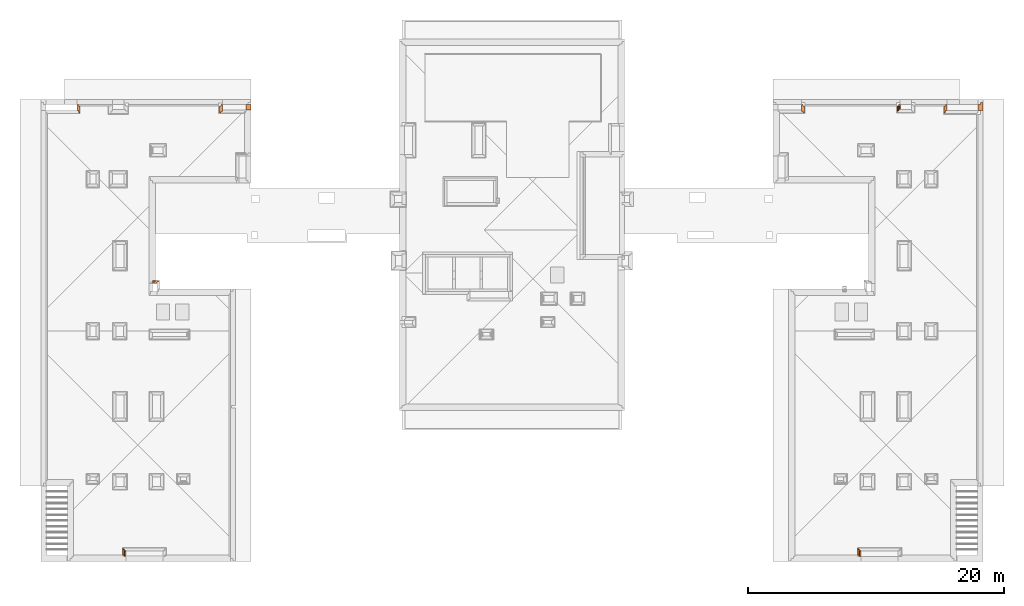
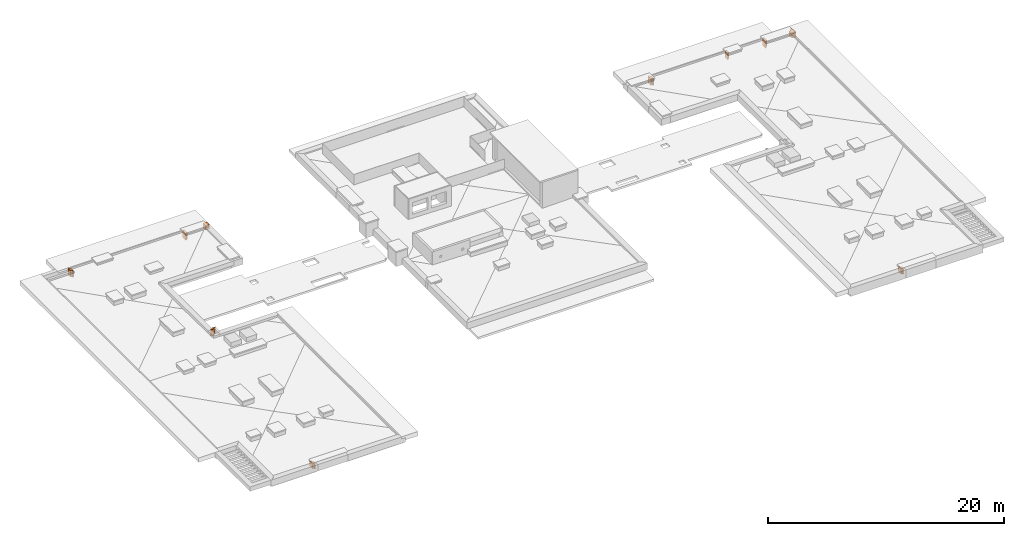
# One storey, part 16 of 16: 10 proxies.
"""IFC2X3 building model written with IfcOpenShell, lengths in millimetres."""

from ifc_helpers import new_model, entity, si_unit, converted_unit, derived_unit, money_unit, direction, frame, origin_with_axes, place, context, subcontext, project, spatial, faceted_brep, material, material_list, type_object, element, save


model = new_model("IFC2X3")

# Units and contexts
model_context = context("Model", 3, precision=0.01, world=origin_with_axes(), true_north=direction((0.34421633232, 0.938890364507)))
body_context = subcontext(model_context, "Body", "Model", "MODEL_VIEW")
ifc_project = project(units=[si_unit("LENGTHUNIT", "METRE", prefix="MILLI"), si_unit("AREAUNIT", "SQUARE_METRE"), si_unit("VOLUMEUNIT", "CUBIC_METRE"), converted_unit("PLANEANGLEUNIT", "DEGREE", entity("IfcPlaneAngleMeasure", 0.0174532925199), si_unit("PLANEANGLEUNIT", "RADIAN"), dimensions=[0, 0, 0, 0, 0, 0, 0]), si_unit("SOLIDANGLEUNIT", "STERADIAN"), money_unit("USD"), converted_unit("TIMEUNIT", "Year", entity("IfcTimeMeasure", 31556926.0), si_unit("TIMEUNIT", "SECOND"), dimensions=[0, 0, 1, 0, 0, 0, 0]), si_unit("MASSUNIT", "GRAM", prefix="KILO"), si_unit("THERMODYNAMICTEMPERATUREUNIT", "DEGREE_CELSIUS"), si_unit("LUMINOUSINTENSITYUNIT", "LUMEN"), si_unit("ENERGYUNIT", "JOULE", prefix="MEGA"), derived_unit("THERMALCONDUCTANCEUNIT", [(si_unit("POWERUNIT", "WATT"), 1), (si_unit("LENGTHUNIT", "METRE"), -1), (si_unit("THERMODYNAMICTEMPERATUREUNIT", "KELVIN"), -1)]), derived_unit("SPECIFICHEATCAPACITYUNIT", [(si_unit("ENERGYUNIT", "JOULE"), 1), (si_unit("MASSUNIT", "GRAM", prefix="KILO"), -1), (si_unit("THERMODYNAMICTEMPERATUREUNIT", "KELVIN"), -1)]), derived_unit("MASSDENSITYUNIT", [(si_unit("MASSUNIT", "GRAM", prefix="KILO"), 1), (si_unit("VOLUMEUNIT", "CUBIC_METRE"), -1)])], contexts=[model_context])

# Site, building, storey
site_placement = place(None, origin_with_axes())
site = spatial("IfcSite", under=ifc_project, at=site_placement, Name="USTRONIE MORSKIE", CompositionType="ELEMENT")
building_placement = place(site_placement, origin_with_axes())
building = spatial("IfcBuilding", under=site, at=building_placement, Name="Budynek", CompositionType="ELEMENT")
storey_placement = place(building_placement, frame((0.0, 0.0, 19000.0), z_axis=(0.0, 0.0, 1.0), x_axis=(1.0, 0.0, 0.0)))
storey = spatial("IfcBuildingStorey", under=building, at=storey_placement, Name="DACH", CompositionType="ELEMENT", Elevation=19000.0)

# Proxies
ifc_material_1 = material(Name="Bloczki silikatowe")
ifc_material_2 = material(Name="Wełna ELEW")
ifc_material_3 = material(Name="Tynk zewnętrzny")
ifc_material_list_1 = material_list([ifc_material_1, ifc_material_2, ifc_material_3])
building_element_proxy_type_1 = type_object("IfcBuildingElementProxyType", Name="12+10 kominy 230", PredefinedType="NOTDEFINED")
proxy_1_placement = place(storey_placement, frame((365157.901749, 744801.199036, -160.0), z_axis=(0.0, 0.0, 1.0), x_axis=(0.0, -1.0, 0.0)))
element("IfcBuildingElementProxy", 1, at=proxy_1_placement, inside=storey, type_object=building_element_proxy_type_1, material=ifc_material_list_1, Name="Œciana-006", context=body_context, shape_type="Brep", body=[
    faceted_brep([(720.0, 0.0, 0.0), (180.0, 0.0, 0.0), (180.0, 0.0, 660.0), (720.0, 0.0, 660.0), (720.0, -120.0, 0.0), (180.0, -120.0, 0.0), (180.0, -120.0, 660.0), (720.0, -120.0, 660.0)], [[[0, 1, 2, 3]], [[4, 5, 1, 0]], [[5, 6, 2, 1]], [[3, 2, 6, 7]], [[4, 0, 3, 7]], [[7, 6, 5, 4]]]),
    faceted_brep([(820.0, -120.0, 5.0), (280.0, -120.0, 5.0), (280.0, -120.0, 660.0), (820.0, -120.0, 660.0), (280.0, -220.0, 5.0), (820.0, -220.0, 5.0), (280.0, -220.0, 660.0), (820.0, -220.0, 660.0)], [[[0, 1, 2, 3]], [[4, 1, 0, 5]], [[1, 4, 6, 2]], [[3, 2, 6, 7]], [[5, 0, 3, 7]], [[4, 5, 7, 6]]]),
    faceted_brep([(830.0, -220.0, 5.0), (290.0, -220.0, 5.0), (290.0, -220.0, 660.0), (830.0, -220.0, 660.0), (290.0, -230.0, 5.0), (830.0, -230.0, 5.0), (290.0, -230.0, 660.0), (830.0, -230.0, 660.0)], [[[0, 1, 2, 3]], [[4, 1, 0, 5]], [[1, 4, 6, 2]], [[3, 2, 6, 7]], [[5, 0, 3, 7]], [[4, 5, 7, 6]]]),
])
ifc_material_list_2 = material_list([ifc_material_3, ifc_material_2, ifc_material_1])
proxy_2_placement = place(storey_placement, frame((421807.920919, 744151.199036, -160.0), z_axis=(0.0, 0.0, 1.0), x_axis=(0.0, 1.0, 0.0)))
element("IfcBuildingElementProxy", 2, at=proxy_2_placement, inside=storey, type_object=building_element_proxy_type_1, material=ifc_material_list_2, Name="Œciana-006", context=body_context, shape_type="Brep", body=[
    faceted_brep([(-220.0, 160.0, 5.0), (360.0, 160.0, 5.0), (360.0, 160.0, 660.0), (-220.0, 160.0, 660.0), (360.0, 170.0, 5.0), (-220.0, 170.0, 5.0), (360.0, 170.0, 660.0), (-220.0, 170.0, 660.0)], [[[0, 1, 2, 3]], [[4, 1, 0, 5]], [[1, 4, 6, 2]], [[3, 2, 6, 7]], [[5, 0, 3, 7]], [[4, 5, 7, 6]]]),
    faceted_brep([(-120.0, 60.0, 5.0), (370.0, 60.0, 5.0), (370.0, 60.0, 660.0), (-120.0, 60.0, 660.0), (370.0, 160.0, 5.0), (-120.0, 160.0, 5.0), (370.0, 160.0, 660.0), (-120.0, 160.0, 660.0)], [[[0, 1, 2, 3]], [[4, 1, 0, 5]], [[1, 4, 6, 2]], [[3, 2, 6, 7]], [[5, 0, 3, 7]], [[4, 5, 7, 6]]]),
    faceted_brep([(470.0, -60.0, 0.0), (470.0, -60.0, 210.0), (470.0, -60.0, 660.0), (0.0, -60.0, 660.0), (0.0, -60.0, 0.0), (470.0, 60.0, 0.0), (470.0, 60.0, 660.0), (0.0, 60.0, 660.0), (0.0, 60.0, 0.0)], [[[0, 1, 2, 3, 4]], [[5, 6, 2, 1, 0]], [[3, 2, 6, 7]], [[8, 4, 3, 7]], [[8, 5, 0, 4]], [[7, 6, 5, 8]]]),
])
proxy_3_placement = place(storey_placement, frame((357597.920919, 709701.199036, -160.0), z_axis=(0.0, 0.0, 1.0), x_axis=(0.0, -1.0, 0.0)))
element("IfcBuildingElementProxy", 3, at=proxy_3_placement, inside=storey, type_object=building_element_proxy_type_1, material=ifc_material_list_1, Name="Œciana-006", context=body_context, shape_type="Brep", body=[
    faceted_brep([(0.0, -120.0, 540.0), (420.0, -120.0, 540.0), (420.0, 0.0, 540.0), (0.0, 0.0, 540.0), (0.0, -120.0, 0.0), (420.0, -120.0, 0.0), (420.0, 0.0, 0.0), (0.0, 0.0, 0.0)], [[[0, 1, 2, 3]], [[4, 5, 1, 0]], [[6, 2, 1, 5]], [[3, 2, 6, 7]], [[4, 0, 3, 7]], [[7, 6, 5, 4]]]),
    faceted_brep([(320.0, -120.0, 5.0), (-120.0, -120.0, 5.0), (-120.0, -120.0, 540.0), (320.0, -120.0, 540.0), (-120.0, -220.0, 5.0), (320.0, -220.0, 5.0), (-120.0, -220.0, 540.0), (320.0, -220.0, 540.0)], [[[0, 1, 2, 3]], [[4, 1, 0, 5]], [[1, 4, 6, 2]], [[6, 7, 3, 2]], [[5, 0, 3, 7]], [[4, 5, 7, 6]]]),
    faceted_brep([(310.0, -220.0, 5.0), (-220.0, -220.0, 5.0), (-220.0, -220.0, 540.0), (310.0, -220.0, 540.0), (-220.0, -230.0, 5.0), (310.0, -230.0, 5.0), (-220.0, -230.0, 540.0), (310.0, -230.0, 540.0)], [[[0, 1, 2, 3]], [[4, 1, 0, 5]], [[1, 4, 6, 2]], [[6, 7, 3, 2]], [[5, 0, 3, 7]], [[4, 5, 7, 6]]]),
])
proxy_4_placement = place(storey_placement, frame((353827.920919, 744151.199036, -160.0), z_axis=(0.0, 0.0, 1.0), x_axis=(0.0, 1.0, 0.0)))
element("IfcBuildingElementProxy", 4, at=proxy_4_placement, inside=storey, type_object=building_element_proxy_type_1, material=ifc_material_list_1, Name="Œciana-006", context=body_context, shape_type="Brep", body=[
    faceted_brep([(470.0, -59.9999999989, 0.0), (470.0, -60.0, 660.0), (0.0, -60.0, 660.0), (0.0, -60.0, 0.0), (470.0, 60.0, 0.0), (470.0, 60.0, 210.0), (470.0, 60.0, 660.0), (0.0, 60.0, 660.0), (0.0, 60.0, 0.0)], [[[0, 1, 2, 3]], [[4, 5, 6, 1, 0]], [[2, 1, 6, 7]], [[8, 3, 2, 7]], [[8, 4, 0, 3]], [[7, 6, 5, 4, 8]]]),
    faceted_brep([(-120.0, -160.0, 5.0), (370.0, -160.0, 5.0), (370.0, -160.0, 660.0), (-120.0, -160.0, 660.0), (370.0, -59.9999999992, 5.0), (-120.0, -60.0, 5.0), (370.0, -60.0, 660.0), (-120.0, -60.0, 660.0)], [[[0, 1, 2, 3]], [[4, 1, 0, 5]], [[1, 4, 6, 2]], [[3, 2, 6, 7]], [[5, 0, 3, 7]], [[4, 5, 7, 6]]]),
    faceted_brep([(-220.0, -170.0, 5.0), (360.0, -170.0, 5.0), (360.0, -170.0, 660.0), (-220.0, -170.0, 660.0), (360.0, -160.0, 5.0), (-220.0, -160.0, 5.0), (360.0, -160.0, 660.0), (-220.0, -160.0, 660.0)], [[[0, 1, 2, 3]], [[4, 1, 0, 5]], [[1, 4, 6, 2]], [[3, 2, 6, 7]], [[5, 0, 3, 7]], [[4, 5, 7, 6]]]),
])
proxy_5_placement = place(storey_placement, frame((418137.920919, 744191.199036, -160.0), z_axis=(0.0, 0.0, 1.0), x_axis=(0.0, 1.0, 0.0)))
element("IfcBuildingElementProxy", 5, at=proxy_5_placement, inside=storey, type_object=building_element_proxy_type_1, material=ifc_material_list_2, Name="Œciana-006", context=body_context, shape_type="Brep", body=[
    faceted_brep([(-160.0, 160.0, 5.0), (320.0, 160.0, 5.0), (320.0, 160.0, 660.0), (-160.0, 160.0, 660.0), (320.0, 170.0, 5.0), (-160.0, 170.0, 5.0), (320.0, 170.0, 660.0), (-160.0, 170.0, 660.0)], [[[0, 1, 2, 3]], [[4, 1, 0, 5]], [[1, 4, 6, 2]], [[2, 6, 7, 3]], [[5, 0, 3, 7]], [[4, 5, 7, 6]]]),
    faceted_brep([(-59.9999999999, 60.0, 5.0), (330.0, 60.0, 5.0), (330.0, 60.0, 660.0), (-59.9999999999, 60.0, 660.0), (330.0, 160.0, 5.0), (-59.9999999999, 160.0, 5.0), (330.0, 160.0, 660.0), (-59.9999999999, 160.0, 660.0)], [[[0, 1, 2, 3]], [[4, 1, 0, 5]], [[1, 4, 6, 2]], [[2, 6, 7, 3]], [[5, 0, 3, 7]], [[4, 5, 7, 6]]]),
    faceted_brep([(430.0, -60.0, 660.0), (430.0, 60.0, 660.0), (59.9999999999, 60.0, 660.0), (59.9999999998, -60.0, 660.0), (430.0, -60.0, 0.0), (430.0, 60.0, 0.0), (59.9999999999, 60.0, 0.0), (59.9999999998, -60.0, 0.0)], [[[0, 1, 2, 3]], [[1, 0, 4, 5]], [[1, 5, 6, 2]], [[7, 3, 2, 6]], [[4, 0, 3, 7]], [[5, 4, 7, 6]]]),
])
proxy_6_placement = place(storey_placement, frame((415117.922503, 709701.199036, -160.0), z_axis=(0.0, 0.0, 1.0), x_axis=(0.0, -1.0, 0.0)))
element("IfcBuildingElementProxy", 6, at=proxy_6_placement, inside=storey, type_object=building_element_proxy_type_1, material=ifc_material_list_1, Name="Œciana-006", context=body_context, shape_type="Brep", body=[
    faceted_brep([(0.0, -120.0, 540.0), (420.0, -120.0, 540.0), (420.0, 0.0, 540.0), (0.0, 0.0, 540.0), (0.0, -120.0, 0.0), (420.0, -120.0, 0.0), (420.0, 0.0, 0.0), (0.0, 0.0, 0.0)], [[[0, 1, 2, 3]], [[4, 5, 1, 0]], [[6, 2, 1, 5]], [[3, 2, 6, 7]], [[4, 0, 3, 7]], [[7, 6, 5, 4]]]),
    faceted_brep([(320.0, -120.0, 5.0), (-120.0, -120.0, 5.0), (-120.0, -120.0, 540.0), (320.0, -120.0, 540.0), (-120.0, -220.0, 5.0), (320.0, -220.0, 5.0), (-120.0, -220.0, 540.0), (320.0, -220.0, 540.0)], [[[0, 1, 2, 3]], [[4, 1, 0, 5]], [[1, 4, 6, 2]], [[6, 7, 3, 2]], [[5, 0, 3, 7]], [[4, 5, 7, 6]]]),
    faceted_brep([(310.0, -220.0, 5.0), (-220.0, -220.0, 5.0), (-220.0, -220.0, 540.0), (310.0, -220.0, 540.0), (-220.0, -230.0, 5.0), (310.0, -230.0, 5.0), (-220.0, -230.0, 540.0), (310.0, -230.0, 540.0)], [[[0, 1, 2, 3]], [[4, 1, 0, 5]], [[1, 4, 6, 2]], [[6, 7, 3, 2]], [[5, 0, 3, 7]], [[4, 5, 7, 6]]]),
])
proxy_7_placement = place(storey_placement, frame((410477.940087, 744801.199036, -160.0), z_axis=(0.0, 0.0, 1.0), x_axis=(1.81116396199e-08, -1.0, 0.0)))
element("IfcBuildingElementProxy", 7, at=proxy_7_placement, inside=storey, type_object=building_element_proxy_type_1, material=ifc_material_list_2, Name="Œciana-006", context=body_context, shape_type="Brep", body=[
    faceted_brep([(830.000003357, 229.999984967, 5.0), (290.000004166, 229.999994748, 5.0), (290.000004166, 229.999994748, 660.0), (830.000003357, 229.999984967, 660.0), (290.000003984, 219.999994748, 5.0), (830.000003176, 219.999984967, 5.0), (290.000003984, 219.999994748, 660.0), (830.000003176, 219.999984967, 660.0)], [[[0, 1, 2, 3]], [[4, 1, 0, 5]], [[1, 4, 6, 2]], [[3, 2, 6, 7]], [[5, 0, 3, 7]], [[4, 5, 7, 6]]]),
    faceted_brep([(820.000003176, 219.999985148, 5.0), (280.000003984, 219.999994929, 5.0), (280.000003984, 219.999994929, 660.0), (820.000003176, 219.999985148, 660.0), (280.000002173, 119.999994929, 5.0), (820.000001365, 119.999985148, 5.0), (280.000002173, 119.999994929, 660.0), (820.000001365, 119.999985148, 660.0)], [[[0, 1, 2, 3]], [[4, 1, 0, 5]], [[1, 4, 6, 2]], [[3, 2, 6, 7]], [[5, 0, 3, 7]], [[4, 5, 7, 6]]]),
    faceted_brep([(720.000001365, 119.99998696, 0.0), (180.000002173, 119.99999674, 0.0), (180.000002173, 119.99999674, 660.0), (720.000001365, 119.99998696, 660.0), (719.999999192, -1.30403918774e-05, 0.0), (180.0, -1.44882505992e-06, 0.0), (180.0, -1.44882505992e-06, 660.0), (719.999999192, -1.30403918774e-05, 660.0)], [[[0, 1, 2, 3]], [[4, 5, 1, 0]], [[5, 6, 2, 1]], [[3, 2, 6, 7]], [[4, 0, 3, 7]], [[7, 6, 5, 4]]]),
])
proxy_8_placement = place(storey_placement, frame((360047.920919, 730641.199036, -159.999998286), z_axis=(0.0, 0.0, 1.0), x_axis=(-1.0, 0.0, 0.0)))
element("IfcBuildingElementProxy", 8, at=proxy_8_placement, inside=storey, type_object=building_element_proxy_type_1, material=ifc_material_list_1, Name="Œciana-006", context=body_context, shape_type="Brep", body=[
    faceted_brep([(350.000051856, -120.0, -1.69980651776e-06), (350.000053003, -120.0, 4.99999828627), (350.000051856, -120.0, 659.999998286), (0.0, -120.0, 659.999998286), (0.0, -120.0, -5.78285863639e-07), (350.000052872, 0.0, 4.99999828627), (350.000051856, 0.0, -1.69980651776e-06), (350.000051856, 0.0, 659.999998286), (0.0, 0.0, 659.999998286), (0.0, 0.0, -5.78285863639e-07)], [[[0, 1, 2, 3, 4]], [[5, 1, 0, 6]], [[1, 5, 7, 2]], [[2, 7, 8, 3]], [[4, 3, 8, 9]], [[6, 0, 4, 9]], [[5, 6, 9, 8, 7]]]),
    faceted_brep([(350.000051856, -220.0, -1.71373315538e-06), (350.000051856, -220.0, 4.99999828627), (150.000051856, -220.0, 4.99999828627), (150.000051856, -220.0, 659.999998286), (-120.0, -220.0, 659.999998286), (-120.0, -220.0, -3.68000740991e-07), (350.000051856, -120.0, 4.99999828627), (350.000051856, -120.0, -1.71373315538e-06), (150.000051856, -120.0, 4.99999828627), (150.000051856, -120.0, 659.999998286), (-120.0, -120.0, 659.999998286), (-120.0, -120.0, -3.68000740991e-07)], [[[0, 1, 2, 3, 4, 5]], [[6, 1, 0, 7]], [[1, 6, 8, 2]], [[8, 9, 3, 2]], [[4, 3, 9, 10]], [[11, 5, 4, 10]], [[7, 0, 5, 11]], [[6, 7, 11, 10, 9, 8]]]),
    faceted_brep([(350.000051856, -230.0, -1.71373315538e-06), (350.000051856, -230.0, 4.99999828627), (140.000051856, -230.0, 4.99999828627), (140.000051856, -230.0, 659.999998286), (-220.0, -230.0, 659.999998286), (-220.0, -230.0, -1.92763138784e-07), (350.000051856, -220.0, 4.99999828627), (350.000051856, -220.0, -1.71373315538e-06), (140.000051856, -220.0, 4.99999828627), (140.000051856, -220.0, 659.999998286), (-220.0, -220.0, 659.999998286), (-220.0, -220.0, -1.92763138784e-07)], [[[0, 1, 2, 3, 4, 5]], [[6, 1, 0, 7]], [[1, 6, 8, 2]], [[8, 9, 3, 2]], [[4, 3, 9, 10]], [[11, 5, 4, 10]], [[7, 0, 5, 11]], [[6, 7, 11, 10, 9, 8]]]),
])
building_element_proxy_type_2 = type_object("IfcBuildingElementProxyType", Name="18 SILIKAT+20 390", PredefinedType="NOTDEFINED")
proxy_9_placement = place(storey_placement, frame((424467.920919, 744151.199036, -160.0), z_axis=(0.0, 0.0, 1.0), x_axis=(0.0, 1.0, 0.0)))
element("IfcBuildingElementProxy", 9, at=proxy_9_placement, inside=storey, type_object=building_element_proxy_type_2, material=ifc_material_list_1, Name="Œciana-006", context=body_context, shape_type="Brep", body=[
    faceted_brep([(470.0, 180.0, 450.0), (470.0, 0.0, 450.0), (470.0, 0.0, 210.000001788), (470.0, 100.0, 210.000001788), (470.0, 100.0, 0.0), (470.0, 180.0, 0.0), (0.0, 0.0, 450.0), (0.0, 180.0, 450.0), (0.0, 0.0, 0.0), (450.000000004, 0.0, 0.0), (450.000000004, 0.0, 210.000001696), (450.000000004, 100.0, 210.000001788), (450.000000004, 100.0, 0.0), (0.0, 180.0, 0.0)], [[[0, 1, 2, 3, 4, 5]], [[6, 1, 0, 7]], [[1, 6, 8, 9, 10, 2]], [[11, 3, 2, 10]], [[12, 4, 3, 11]], [[4, 12, 9, 8, 13, 5]], [[7, 0, 5, 13]], [[6, 7, 13, 8]], [[11, 10, 9, 12]]]),
    faceted_brep([(650.000000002, 0.0, 450.0), (650.000000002, -200.0, 450.0), (650.000000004, -200.0, 210.000001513), (650.000000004, 0.0, 210.000001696), (0.0, -200.0, 450.0), (0.0, 0.0, 450.0), (0.0, -200.0, 0.0), (350.000000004, -200.0, 0.0), (350.000000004, -200.0, 210.000001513), (350.000000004, 0.0, 210.000001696), (350.000000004, 0.0, 0.0), (0.0, 0.0, 0.0)], [[[0, 1, 2, 3]], [[4, 1, 0, 5]], [[1, 4, 6, 7, 8, 2]], [[3, 2, 8, 9]], [[5, 0, 3, 9, 10, 11]], [[4, 5, 11, 6]], [[11, 10, 7, 6]], [[9, 8, 7, 10]]]),
    faceted_brep([(850.000000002, -200.0, 450.0), (850.000000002, -210.0, 450.0), (850.000000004, -210.0, 210.000001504), (850.000000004, -200.0, 210.000001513), (0.0, -210.0, 450.0), (0.0, -200.0, 450.0), (0.0, -210.0, 0.0), (340.000000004, -210.0, 0.0), (340.000000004, -210.0, 210.000001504), (340.000000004, -200.0, 210.000001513), (340.000000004, -200.0, 0.0), (0.0, -200.0, 0.0)], [[[0, 1, 2, 3]], [[4, 1, 0, 5]], [[1, 4, 6, 7, 8, 2]], [[3, 2, 8, 9]], [[5, 0, 3, 9, 10, 11]], [[4, 5, 11, 6]], [[11, 10, 7, 6]], [[9, 8, 7, 10]]]),
])
proxy_10_placement = place(storey_placement, frame((367167.920919, 744801.199036, 50.0), z_axis=(0.0, 0.0, 1.0), x_axis=(0.0, -1.0, 0.0)))
element("IfcBuildingElementProxy", 10, at=proxy_10_placement, inside=storey, type_object=building_element_proxy_type_2, material=ifc_material_list_2, Name="Œciana-006", context=body_context, shape_type="Brep", body=[
    faceted_brep([(180.0, 210.0, 450.0), (600.0, 210.0, 450.0), (600.0, 210.0, 0.0), (180.0, 210.0, 0.0), (180.0, 200.0, 450.0), (600.0, 200.0, 450.0), (600.0, 200.0, 0.0), (180.0, 200.0, 0.0)], [[[0, 1, 2, 3]], [[0, 4, 5, 1]], [[2, 1, 5, 6]], [[7, 3, 2, 6]], [[4, 0, 3, 7]], [[4, 7, 6, 5]]]),
    faceted_brep([(180.0, 200.0, 450.0), (600.0, 200.0, 450.0), (600.0, 200.0, 0.0), (180.0, 200.0, 0.0), (180.0, 0.0, 450.0), (600.0, 0.0, 450.0), (600.0, 0.0, 0.0), (180.0, 0.0, 0.0)], [[[0, 1, 2, 3]], [[0, 4, 5, 1]], [[2, 1, 5, 6]], [[7, 3, 2, 6]], [[4, 0, 3, 7]], [[4, 7, 6, 5]]]),
    faceted_brep([(600.0, 0.0, 450.0), (180.0, 0.0, 450.0), (180.0, -180.0, 450.0), (600.0, -180.0, 450.0), (600.0, 0.0, 0.0), (180.0, 0.0, 0.0), (180.0, -180.0, 0.0), (600.0, -180.0, 0.0)], [[[0, 1, 2, 3]], [[4, 5, 1, 0]], [[6, 2, 1, 5]], [[3, 2, 6, 7]], [[7, 4, 0, 3]], [[7, 6, 5, 4]]]),
])

save(model, "model.ifc")
